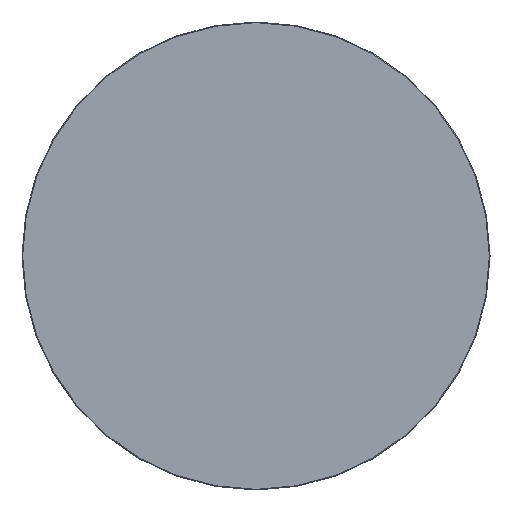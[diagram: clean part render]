
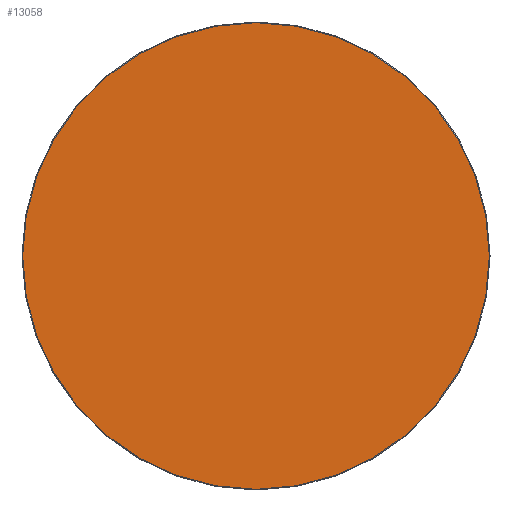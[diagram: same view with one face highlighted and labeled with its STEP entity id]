
A CAD part, top view. The second image highlights one B-rep face of the part: STEP entity #13058.
In plain terms, the highlighted planar face has unit normal (0, 0, 1).
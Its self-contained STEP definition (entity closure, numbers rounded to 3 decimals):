
#12983=CARTESIAN_POINT('',(0.,0.,20.));
#12984=DIRECTION('',(1.,0.,0.));
#12985=DIRECTION('',(0.,0.,1.));
#12986=AXIS2_PLACEMENT_3D('',#12983,#12985,#12984);
#12987=PLANE('',#12986);
#12988=CARTESIAN_POINT('',(-0.5,-498.5,20.));
#12989=VERTEX_POINT('',#12988);
#12990=CARTESIAN_POINT('',(0.5,-498.5,20.));
#12991=VERTEX_POINT('',#12990);
#12992=CARTESIAN_POINT('',(-0.5,-498.5,20.));
#12993=DIRECTION('',(1.,0.,0.));
#12994=VECTOR('',#12993,1.);
#12995=LINE('',#12992,#12994);
#12996=EDGE_CURVE('',#12989,#12991,#12995,.T.);
#12997=ORIENTED_EDGE('E105',*,*,#12996,.T.);
#12998=CARTESIAN_POINT('',(498.5,-0.5,20.));
#12999=VERTEX_POINT('',#12998);
#13000=CARTESIAN_POINT('',(0.5,-0.5,20.));
#13001=DIRECTION('',(0.,-1.,0.));
#13002=DIRECTION('',(0.,-0.,1.));
#13003=AXIS2_PLACEMENT_3D('',#13000,#13002,#13001);
#13004=CIRCLE('',#13003,498.);
#13005=EDGE_CURVE('',#12991,#12999,#13004,.T.);
#13006=ORIENTED_EDGE('E107',*,*,#13005,.T.);
#13007=CARTESIAN_POINT('',(498.5,0.5,20.));
#13008=VERTEX_POINT('',#13007);
#13009=CARTESIAN_POINT('',(498.5,-0.5,20.));
#13010=DIRECTION('',(0.,1.,0.));
#13011=VECTOR('',#13010,1.);
#13012=LINE('',#13009,#13011);
#13013=EDGE_CURVE('',#12999,#13008,#13012,.T.);
#13014=ORIENTED_EDGE('E109',*,*,#13013,.T.);
#13015=CARTESIAN_POINT('',(0.5,498.5,20.));
#13016=VERTEX_POINT('',#13015);
#13017=CARTESIAN_POINT('',(0.5,0.5,20.));
#13018=DIRECTION('',(1.,0.,0.));
#13019=DIRECTION('',(0.,0.,1.));
#13020=AXIS2_PLACEMENT_3D('',#13017,#13019,#13018);
#13021=CIRCLE('',#13020,498.);
#13022=EDGE_CURVE('',#13008,#13016,#13021,.T.);
#13023=ORIENTED_EDGE('E111',*,*,#13022,.T.);
#13024=CARTESIAN_POINT('',(-0.5,498.5,20.));
#13025=VERTEX_POINT('',#13024);
#13026=CARTESIAN_POINT('',(0.5,498.5,20.));
#13027=DIRECTION('',(-1.,0.,0.));
#13028=VECTOR('',#13027,1.);
#13029=LINE('',#13026,#13028);
#13030=EDGE_CURVE('',#13016,#13025,#13029,.T.);
#13031=ORIENTED_EDGE('E113',*,*,#13030,.T.);
#13032=CARTESIAN_POINT('',(-498.5,0.5,20.));
#13033=VERTEX_POINT('',#13032);
#13034=CARTESIAN_POINT('',(-0.5,0.5,20.));
#13035=DIRECTION('',(0.,1.,0.));
#13036=DIRECTION('',(0.,0.,1.));
#13037=AXIS2_PLACEMENT_3D('',#13034,#13036,#13035);
#13038=CIRCLE('',#13037,498.);
#13039=EDGE_CURVE('',#13025,#13033,#13038,.T.);
#13040=ORIENTED_EDGE('E115',*,*,#13039,.T.);
#13041=CARTESIAN_POINT('',(-498.5,-0.5,20.));
#13042=VERTEX_POINT('',#13041);
#13043=CARTESIAN_POINT('',(-498.5,0.5,20.));
#13044=DIRECTION('',(0.,-1.,0.));
#13045=VECTOR('',#13044,1.);
#13046=LINE('',#13043,#13045);
#13047=EDGE_CURVE('',#13033,#13042,#13046,.T.);
#13048=ORIENTED_EDGE('E117',*,*,#13047,.T.);
#13049=CARTESIAN_POINT('',(-0.5,-0.5,20.));
#13050=DIRECTION('',(-1.,0.,0.));
#13051=DIRECTION('',(0.,0.,1.));
#13052=AXIS2_PLACEMENT_3D('',#13049,#13051,#13050);
#13053=CIRCLE('',#13052,498.);
#13054=EDGE_CURVE('',#13042,#12989,#13053,.T.);
#13055=ORIENTED_EDGE('E119',*,*,#13054,.T.);
#13056=EDGE_LOOP('',(#12997,#13006,#13014,#13023,#13031,#13040,#13048,#13055));
#13057=FACE_OUTER_BOUND('',#13056,.T.);
#13058=ADVANCED_FACE('F2',(#13057),#12987,.T.);
